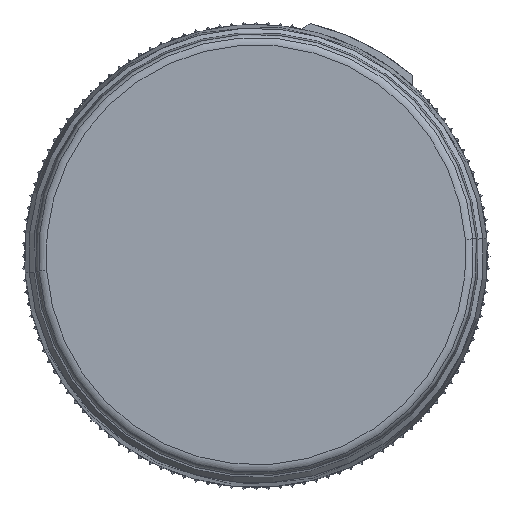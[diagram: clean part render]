
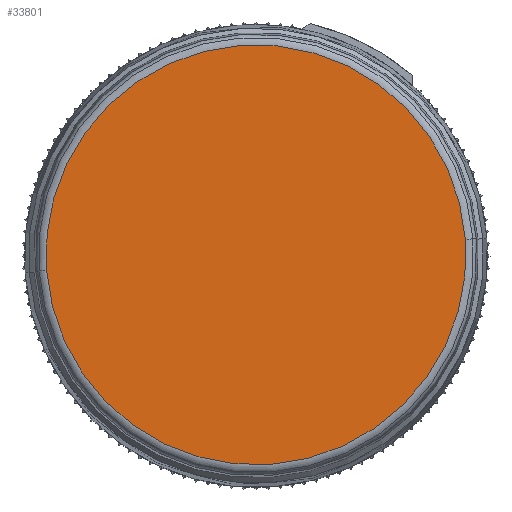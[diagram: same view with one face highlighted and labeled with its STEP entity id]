
A CAD part, top view. The second image highlights one B-rep face of the part: STEP entity #33801.
In plain terms, the highlighted planar face has unit normal (0, 0, 1).
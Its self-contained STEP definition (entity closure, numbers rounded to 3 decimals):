
#33586=CARTESIAN_POINT('',(0.,0.,39.9));
#33587=DIRECTION('',(0.,0.,1.));
#33588=DIRECTION('',(-0.997,-0.074,0.));
#33589=AXIS2_PLACEMENT_3D('',#33586,#33587,#33588);
#33591=CARTESIAN_POINT('',(0.,0.,39.9));
#33592=DIRECTION('',(0.,0.,1.));
#33593=DIRECTION('',(0.997,0.074,0.));
#33594=AXIS2_PLACEMENT_3D('',#33591,#33592,#33593);
#33766=CARTESIAN_POINT('',(-19.34,-1.435,39.9));
#33768=VERTEX_POINT('',#33766);
#33772=CARTESIAN_POINT('',(19.34,1.435,39.9));
#33773=VERTEX_POINT('',#33772);
#33790=CARTESIAN_POINT('',(-1.506,20.294,39.9));
#33791=DIRECTION('',(0.,0.,-1.));
#33792=DIRECTION('',(-0.997,-0.074,0.));
#33793=AXIS2_PLACEMENT_3D('',#33790,#33791,#33792);
#33794=PLANE('',#33793);
#33796=ORIENTED_EDGE('',*,*,#33795,.F.);
#33798=ORIENTED_EDGE('',*,*,#33797,.F.);
#33799=EDGE_LOOP('',(#33796,#33798));
#33800=FACE_OUTER_BOUND('',#33799,.F.);
#33801=ADVANCED_FACE('',(#33800),#33794,.F.);
#33590=CIRCLE('',#33589,19.393);
#33595=CIRCLE('',#33594,19.393);
#33795=EDGE_CURVE('',#33768,#33773,#33590,.T.);
#33797=EDGE_CURVE('',#33773,#33768,#33595,.T.);
